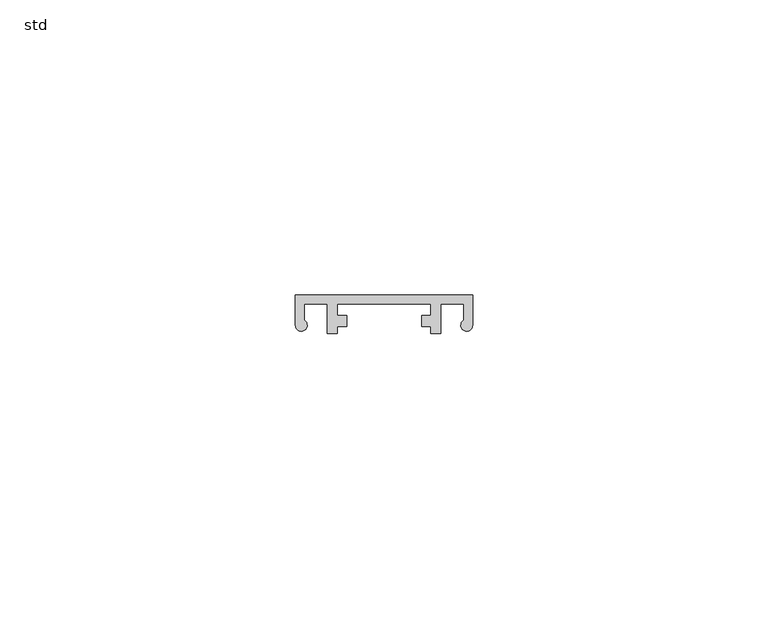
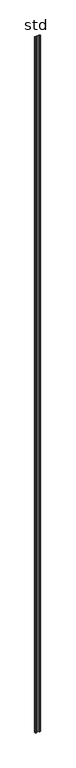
"""IFC4 building model written with IfcOpenShell, lengths in millimetres: column geometry, NLRS_21_COL_drager ST.0065_Storax : std."""

from ifc_helpers import new_model, si_unit, point, frame_2d, origin, origin_with_axes, place, context, project, spatial, polyline, circle_curve, trimmed, segment, composite_curve, outline, extrude, source, transform, mapped, element, save


def std_785593f7(model_context):
    return source(origin(), model_context, "Body", "SweptSolid", [
        extrude(outline(composite_curve([segment(polyline([(-15.0, -6.1202978), (-15.0, -1.0), (15.0, -1.0), (15.0, -6.1202978)]), True, "CONTINUOUS"), segment(trimmed(circle_curve(frame_2d((14.0, -6.1202978)), 1.0), [point((15.0, -6.1202978))], [point((13.5203905, -5.2428158))], False, "CARTESIAN"), True, "CONTINUOUS"), segment(polyline([(13.5203905, -5.2428158), (13.5203905, -2.5), (9.6475726, -2.5), (9.6475726, -7.5), (7.8869401, -7.5), (7.8869401, -6.2999542), (6.3598609, -6.2999542), (6.3598609, -4.4494935), (7.8869401, -4.4494935), (7.8869401, -2.5), (-7.8869401, -2.5), (-7.8869401, -4.4494935), (-6.3475726, -4.4494935), (-6.3475726, -6.2999542), (-7.8869401, -6.2999542), (-7.8869401, -7.5), (-9.6475726, -7.5), (-9.6475726, -2.5), (-13.5203905, -2.5), (-13.5203905, -5.2428158)]), True, "CONTINUOUS"), segment(trimmed(circle_curve(frame_2d((-14.0, -6.1202978)), 1.0), [point((-13.5203905, -5.2428158))], [point((-15.0, -6.1202978))], False, "CARTESIAN"), True, "CONTINUOUS")], self_intersect=False)), origin_with_axes(), (0.0, 0.0, 1.0), 4000.0),
    ])


if __name__ == "__main__":
    model = new_model("IFC4")
    model_context = context("Model", 3, world=origin())
    ifc_project = project(units=[si_unit("LENGTHUNIT", "METRE", prefix="MILLI")], contexts=[model_context])
    site = spatial("IfcSite", under=ifc_project)
    building = spatial("IfcBuilding", under=site)
    placement = place(None, origin())
    std_shape = std_785593f7(model_context)
    element("IfcColumn", 1, ObjectType="NLRS_21_COL_drager ST.0065_Storax : std", at=placement, inside=building, context=model_context, shape_type="MappedRepresentation", body=[
        mapped(std_shape, transform((0.0, 0.0, 0.0), x_axis=(1.0, 0.0, 0.0), y_axis=(0.0, 1.0, 0.0), z_axis=(0.0, 0.0, 1.0))),
    ])
    save(model, "model.ifc")
